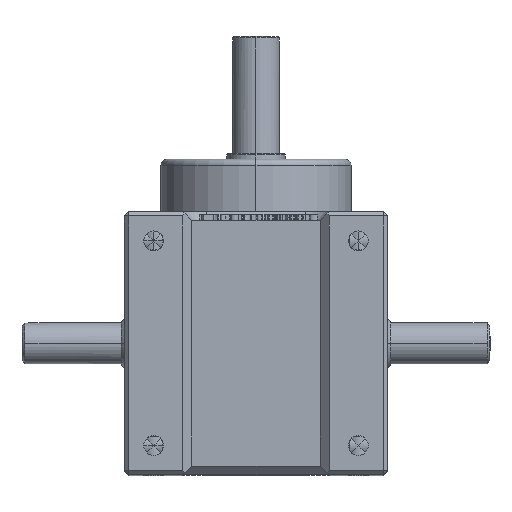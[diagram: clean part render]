
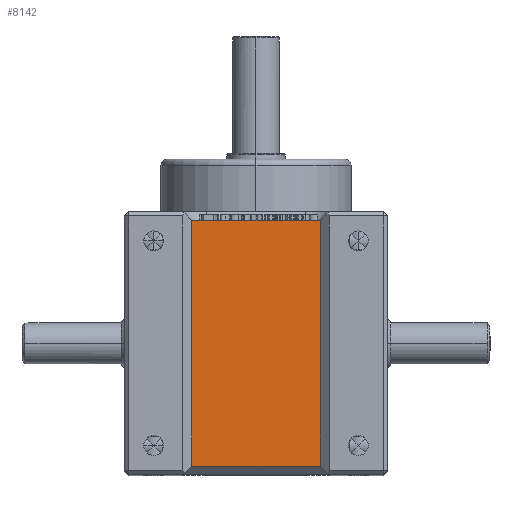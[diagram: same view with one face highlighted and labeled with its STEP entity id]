
A CAD part, top view. The second image highlights one B-rep face of the part: STEP entity #8142.
In plain terms, the highlighted planar face has unit normal (0, 0, 1).
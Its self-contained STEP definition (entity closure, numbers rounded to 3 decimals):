
#3811 = ORIENTED_EDGE ( 'NONE', *, *, #112803, .F. ) ;
#4361 = VECTOR ( 'NONE', #154957, 1000. ) ;
#8142 = ADVANCED_FACE ( 'NONE', ( #60735 ), #157991, .F. ) ;
#14345 = CARTESIAN_POINT ( 'NONE',  ( -22., 0., 82. ) ) ;
#17613 = CARTESIAN_POINT ( 'NONE',  ( 22., 90., 82. ) ) ;
#18066 = VECTOR ( 'NONE', #109329, 1000. ) ;
#22888 = CARTESIAN_POINT ( 'NONE',  ( 22., 87., 82. ) ) ;
#26015 = EDGE_LOOP ( 'NONE', ( #31077, #3811, #110629, #103085 ) ) ;
#27598 = DIRECTION ( 'NONE',  ( 0., 1., 0. ) ) ;
#31077 = ORIENTED_EDGE ( 'NONE', *, *, #167842, .F. ) ;
#39279 = LINE ( 'NONE', #76341, #4361 ) ;
#42129 = CARTESIAN_POINT ( 'NONE',  ( 0., 0., 82. ) ) ;
#42244 = LINE ( 'NONE', #14345, #142757 ) ;
#55315 = DIRECTION ( 'NONE',  ( 0., 0., -1. ) ) ;
#60735 = FACE_OUTER_BOUND ( 'NONE', #26015, .T. ) ;
#67420 = VERTEX_POINT ( 'NONE', #169796 ) ;
#76341 = CARTESIAN_POINT ( 'NONE',  ( -25., 3., 82. ) ) ;
#84399 = VECTOR ( 'NONE', #109356, 1000. ) ;
#91945 = LINE ( 'NONE', #17613, #18066 ) ;
#92307 = AXIS2_PLACEMENT_3D ( 'NONE', #42129, #55315, #147055 ) ;
#93501 = EDGE_CURVE ( 'NONE', #67420, #94518, #91945, .T. ) ;
#94518 = VERTEX_POINT ( 'NONE', #22888 ) ;
#103085 = ORIENTED_EDGE ( 'NONE', *, *, #93501, .T. ) ;
#103954 = VERTEX_POINT ( 'NONE', #120444 ) ;
#109329 = DIRECTION ( 'NONE',  ( 0., 1., 0. ) ) ;
#109356 = DIRECTION ( 'NONE',  ( 1., 0., 0. ) ) ;
#109916 = CARTESIAN_POINT ( 'NONE',  ( 17., 87., 82. ) ) ;
#110629 = ORIENTED_EDGE ( 'NONE', *, *, #123955, .T. ) ;
#112803 = EDGE_CURVE ( 'NONE', #119254, #103954, #42244, .T. ) ;
#119254 = VERTEX_POINT ( 'NONE', #147389 ) ;
#120444 = CARTESIAN_POINT ( 'NONE',  ( -22., 87., 82. ) ) ;
#123955 = EDGE_CURVE ( 'NONE', #119254, #67420, #39279, .T. ) ;
#142757 = VECTOR ( 'NONE', #27598, 1000. ) ;
#147055 = DIRECTION ( 'NONE',  ( -1., 0., 0. ) ) ;
#147389 = CARTESIAN_POINT ( 'NONE',  ( -22., 3., 82. ) ) ;
#154957 = DIRECTION ( 'NONE',  ( 1., 0., 0. ) ) ;
#157991 = PLANE ( 'NONE',  #92307 ) ;
#158323 = LINE ( 'NONE', #109916, #84399 ) ;
#167842 = EDGE_CURVE ( 'NONE', #103954, #94518, #158323, .T. ) ;
#169796 = CARTESIAN_POINT ( 'NONE',  ( 22., 3., 82. ) ) ;
